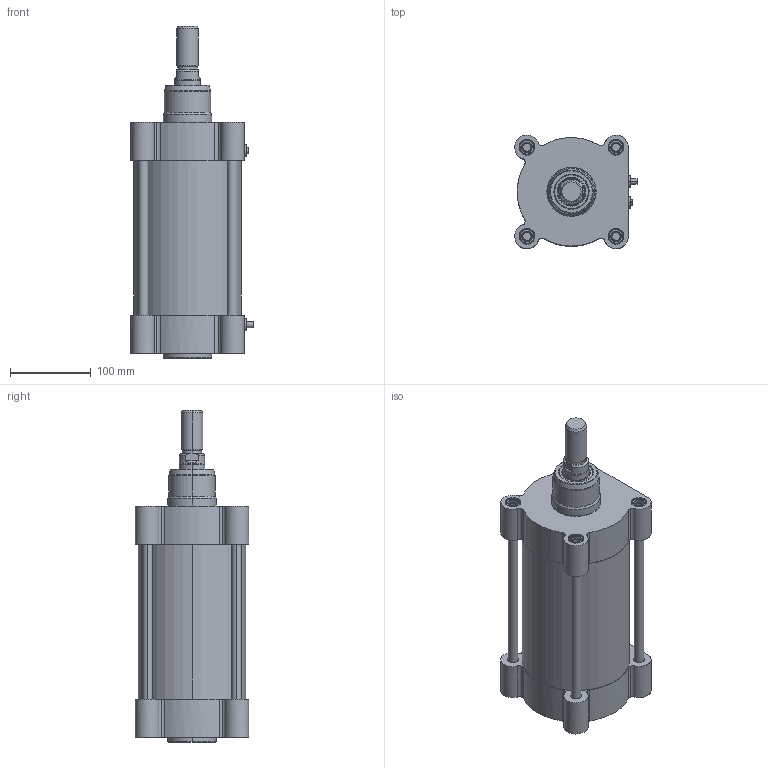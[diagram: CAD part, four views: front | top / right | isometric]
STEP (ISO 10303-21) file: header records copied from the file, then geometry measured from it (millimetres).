
FILE_DESCRIPTION (( 'STEP AP203' ), '1' );
FILE_NAME ('CTMI125-125.STEP', '2020-03-27T10:11:00', ( '' ), ( '' ), 'SwSTEP 2.0', 'SolidWorks 2019', '' );
FILE_SCHEMA (( 'CONFIG_CONTROL_DESIGN' ));
Length unit declared in the file: millimetre
Products named in the file (1): CTMI125-125
Bounding box: 151.1 x 140 x 410 mm (x, y, z)
Surface area: 430090 mm2 (no closed solid volume)
Topology: 0 solids, 23 shells, 767 faces, 1776 edges, 1092 vertices
Faces by surface type: cone 284, cylinder 218, plane 193, torus 56, bspline 16
Entity records: 35882 total; most frequent: CARTESIAN_POINT 20959, ORIENTED_EDGE 3504, DIRECTION 2178, EDGE_CURVE 1776, B_SPLINE_CURVE_WITH_KNOTS 1176, VERTEX_POINT 1092, AXIS2_PLACEMENT_3D 874, EDGE_LOOP 860
